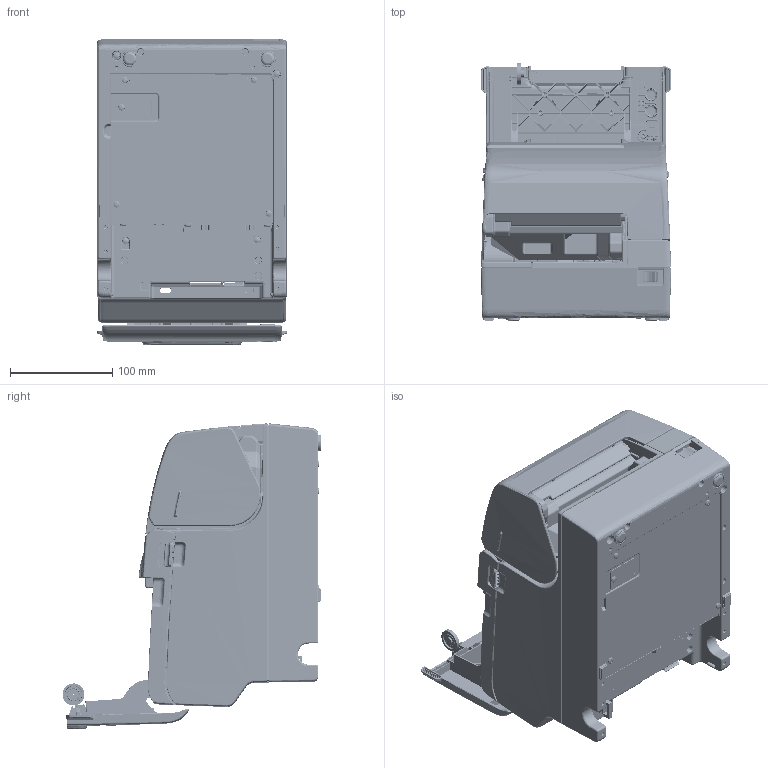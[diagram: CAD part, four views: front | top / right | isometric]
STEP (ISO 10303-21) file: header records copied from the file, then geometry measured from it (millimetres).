
FILE_DESCRIPTION((''),'2;1');
FILE_NAME('TM-H6000VI_OPN_CVRP','2025-07-14T16:18:35',('5012938'),(''),'CREO PARAMETRIC BY PTC INC, 2022281','CREO PARAMETRIC BY PTC INC, 2022281','');
FILE_SCHEMA(('AUTOMOTIVE_DESIGN { 1 0 10303 214 1 1 1 1 }'));
Length unit declared in the file: millimetre
Products named in the file (1): TM-H6000VI_OPN_CVRP
Bounding box: 186 x 253.46 x 299.09 mm (x, y, z)
Surface area: 932808.5 mm2 (no closed solid volume)
Topology: 0 solids, 184 shells, 10074 faces, 31365 edges, 21151 vertices
Faces by surface type: plane 5208, cylinder 2815, bspline 1134, cone 375, torus 343, sphere 130, extrusion 69
Entity records: 482395 total; most frequent: CARTESIAN_POINT 214631, ORIENTED_EDGE 56998, DIRECTION 51094, EDGE_CURVE 31353, VERTEX_POINT 21151, VECTOR 18932, LINE 18863, AXIS2_PLACEMENT_3D 16081
